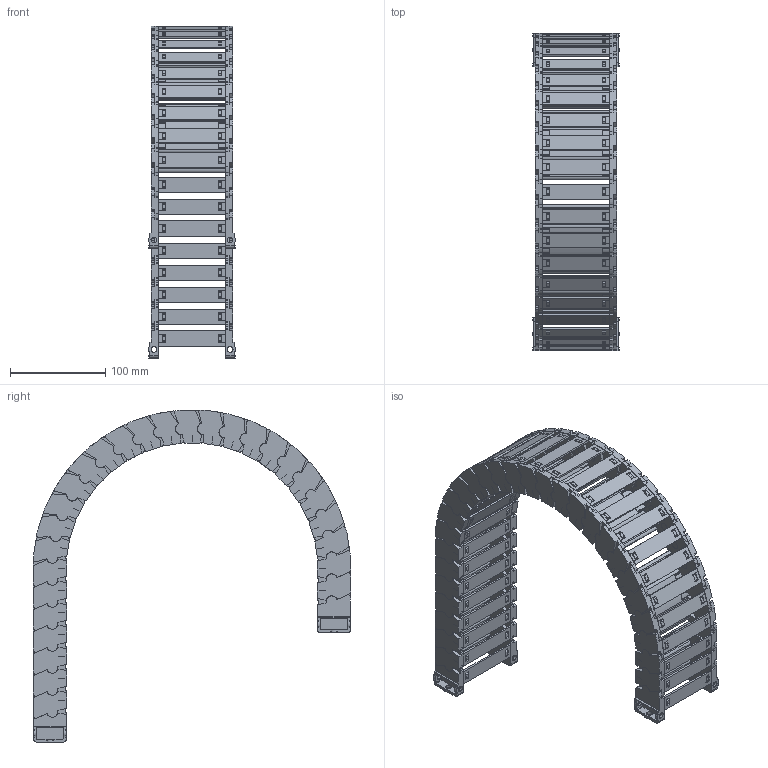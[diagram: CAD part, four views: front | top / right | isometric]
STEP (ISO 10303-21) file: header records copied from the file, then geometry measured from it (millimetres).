
FILE_DESCRIPTION((''),'2;1');
FILE_NAME('JY-25X70-R150_ASM','2022-05-07T11:20:26',('admin'),(''),'CREO PARAMETRIC BY PTC INC, 2021164','CREO PARAMETRIC BY PTC INC, 2021164','');
FILE_SCHEMA(('CONFIG_CONTROL_DESIGN','GEOMETRIC_VALIDATION_PROPERTIES_MIM'));
Length unit declared in the file: millimetre
Products named in the file (11): 25XL-L; 25-35XL-YP; 25XL-R; ASM0001_ASM; 25-LTT-A-L; 25-LTT-A-R; 25XL-LTT-A_ASM; 25-LTT-B-L; 25-LTT-B-R; 25XL-LTT-B_ASM; JY-25X70-R150_ASM
Assembly tree (42 placements, depth 3):
  JY-25X70-R150_ASM
    ASM0001_ASM  x28
      25XL-L
      25-35XL-YP
      25XL-R
    25XL-LTT-A_ASM
      25-LTT-A-L
      25-35XL-YP  x2
      25-LTT-A-R
    25XL-LTT-B_ASM
      25-LTT-B-L
      25-35XL-YP  x2
      25-LTT-B-R
Bounding box: 91.17 x 333.3 x 348.9 mm (x, y, z)
Volume: 547689.1 mm3; surface area: 407001.1 mm2
Topology: 120 solids, 148 shells, 6222 faces, 18602 edges, 12590 vertices
Faces by surface type: plane 4594, cylinder 1572, cone 56
Entity records: 24179 total; most frequent: CARTESIAN_POINT 3140, DIRECTION 3035, ORIENTED_EDGE 2962, EDGE_CURVE 1483, PRESENTATION_STYLE_ASSIGNMENT 1413, STYLED_ITEM 1381, VECTOR 1053, LINE 1053
